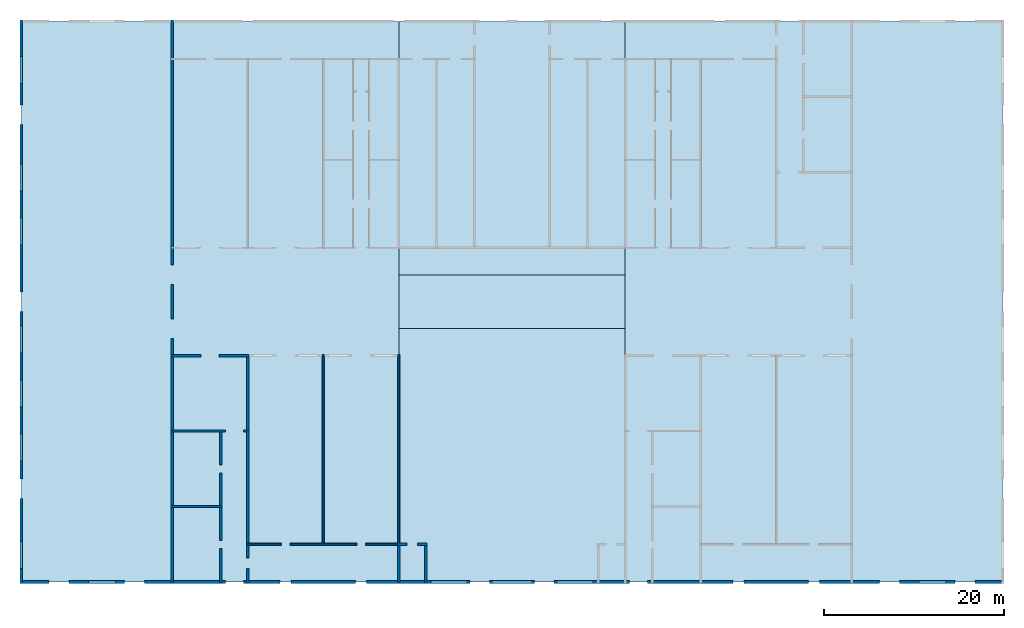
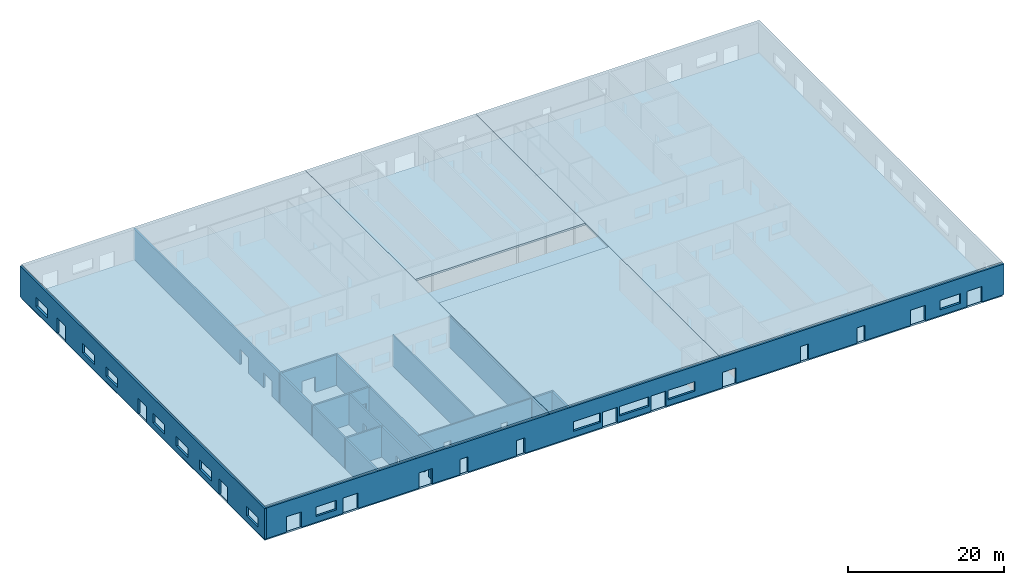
# One storey, part 1 of 3: 14 walls, 5 slabs, 52 openings.
"""IFC4 building model written with IfcOpenShell, lengths in millimetres."""

from ifc_helpers import new_model, si_unit, frame, origin_with_axes, place, context, subcontext, project, spatial, indexed_curve, outline, extrude, type_object, element, save


model = new_model("IFC4")

# Units and contexts
model_context = context("Model", 3, precision=1e-05, world=origin_with_axes())
body_context = subcontext(model_context, "Body", "Model", "MODEL_VIEW")
ifc_project = project(units=[si_unit("AREAUNIT", "SQUARE_METRE"), si_unit("VOLUMEUNIT", "CUBIC_METRE"), si_unit("LENGTHUNIT", "METRE", prefix="MILLI")], contexts=[model_context])

# Site, building, storey
site = spatial("IfcSite", under=ifc_project, Name="PIN 00000000 (sample)")
building = spatial("IfcBuilding", under=site, Name="Sample Shopping Mall")
storey = spatial("IfcBuildingStorey", under=building, Name="Ground Floor", Elevation=0.0)

# Slabs
slab_1_placement = place(None, frame((0.0, 0.0, -300.0), z_axis=(0.0, 0.0, 1.0), x_axis=(1.0, 0.0, 0.0)))
element("IfcSlab", 1, at=slab_1_placement, inside=storey, Name="Ground slab", PredefinedType="FLOOR", context=body_context, shape_type="SweptSolid", body=[
    extrude(outline(indexed_curve([(5400.0, 15600.0), (114599.99999999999, 15600.0), (114599.99999999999, 78000.0), (5400.0, 78000.0)])), None, (0.0, 0.0, 1.0), 300.0),
])
slab_2_placement = place(None, frame((0.0, 0.0, 4800.0), z_axis=(0.0, 0.0, 1.0), x_axis=(1.0, 0.0, 0.0)))
element("IfcSlab", 2, at=slab_2_placement, inside=storey, Name="Roof slab 0", PredefinedType="ROOF", context=body_context, shape_type="SweptSolid", body=[
    extrude(outline(indexed_curve([(5400.0, 15600.0), (47400.0, 15600.0), (47400.0, 78000.0), (5400.0, 78000.0)])), None, (0.0, 0.0, 1.0), 300.0),
])
slab_3_placement = place(None, frame((0.0, 0.0, 4800.0), z_axis=(0.0, 0.0, 1.0), x_axis=(1.0, 0.0, 0.0)))
element("IfcSlab", 3, at=slab_3_placement, inside=storey, Name="Roof slab 1", PredefinedType="ROOF", context=body_context, shape_type="SweptSolid", body=[
    extrude(outline(indexed_curve([(72600.0, 15600.0), (114599.99999999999, 15600.0), (114599.99999999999, 78000.0), (72600.0, 78000.0)])), None, (0.0, 0.0, 1.0), 300.0),
])
slab_4_placement = place(None, frame((0.0, 0.0, 4800.0), z_axis=(0.0, 0.0, 1.0), x_axis=(1.0, 0.0, 0.0)))
element("IfcSlab", 4, at=slab_4_placement, inside=storey, Name="Roof slab 2", PredefinedType="ROOF", context=body_context, shape_type="SweptSolid", body=[
    extrude(outline(indexed_curve([(47400.0, 15600.0), (72600.0, 15600.0), (72600.0, 43799.99999999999), (47400.0, 43799.99999999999)])), None, (0.0, 0.0, 1.0), 300.0),
])
slab_5_placement = place(None, frame((0.0, 0.0, 4800.0), z_axis=(0.0, 0.0, 1.0), x_axis=(1.0, 0.0, 0.0)))
element("IfcSlab", 5, at=slab_5_placement, inside=storey, Name="Roof slab 3", PredefinedType="ROOF", context=body_context, shape_type="SweptSolid", body=[
    extrude(outline(indexed_curve([(47400.0, 49799.99999999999), (72600.0, 49799.99999999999), (72600.0, 78000.0), (47400.0, 78000.0)])), None, (0.0, 0.0, 1.0), 300.0),
])

# Wall, openings
wall_type_1 = type_object("IfcWallType", Name="WT-300", PredefinedType="SOLIDWALL")
wall_1_placement = place(None, frame((5250.0, 15449.999999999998, 0.0), z_axis=(0.0, 0.0, 1.0), x_axis=(1.0, 0.0, 0.0)))
wall_1 = element("IfcWall", 6, at=wall_1_placement, inside=storey, type_object=wall_type_1, Name="W0", context=body_context, shape_type="SweptSolid", body=[
    extrude(outline(indexed_curve([(0.0, 0.0), (0.0, 300.0), (109499.99999999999, 300.0), (109499.99999999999, 0.0), (0.0, 0.0)], self_intersect=False)), origin_with_axes(), (0.0, 0.0, 1.0), 4800.0),
])
opening_1_placement = place(wall_1_placement, frame((50049.99999999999, -99.99999999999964, 0.0), z_axis=(0.0, 0.0, 1.0), x_axis=(1.0, 0.0, 0.0)))
element("IfcOpeningElement", 7, at=opening_1_placement, cuts=wall_1, Name="D03-opening", context=body_context, shape_type="SweptSolid", body=[
    extrude(outline(indexed_curve([(0.0, 0.0), (0.0, 500.0), (1100.0, 500.0), (1100.0, 0.0), (0.0, 0.0)], self_intersect=False)), origin_with_axes(), (0.0, 0.0, 1.0), 2400.0),
])
opening_2_placement = place(wall_1_placement, frame((51150.0, -99.99999999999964, 0.0), z_axis=(0.0, 0.0, 1.0), x_axis=(1.0, 0.0, 0.0)))
element("IfcOpeningElement", 8, at=opening_2_placement, cuts=wall_1, Name="-opening", context=body_context, shape_type="SweptSolid", body=[
    extrude(outline(indexed_curve([(0.0, 0.0), (0.0, 500.0), (1100.0, 500.0), (1100.0, 0.0), (0.0, 0.0)], self_intersect=False)), origin_with_axes(), (0.0, 0.0, 1.0), 2400.0),
])
opening_3_placement = place(wall_1_placement, frame((57250.0, -99.99999999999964, 0.0), z_axis=(0.0, 0.0, 1.0), x_axis=(1.0, 0.0, 0.0)))
element("IfcOpeningElement", 9, at=opening_3_placement, cuts=wall_1, Name="D04-opening", context=body_context, shape_type="SweptSolid", body=[
    extrude(outline(indexed_curve([(0.0, 0.0), (0.0, 500.0), (1100.0, 500.0), (1100.0, 0.0), (0.0, 0.0)], self_intersect=False)), origin_with_axes(), (0.0, 0.0, 1.0), 2400.0),
])
opening_4_placement = place(wall_1_placement, frame((58350.0, -99.99999999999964, 0.0), z_axis=(0.0, 0.0, 1.0), x_axis=(1.0, 0.0, 0.0)))
element("IfcOpeningElement", 10, at=opening_4_placement, cuts=wall_1, Name="-opening", context=body_context, shape_type="SweptSolid", body=[
    extrude(outline(indexed_curve([(0.0, 0.0), (0.0, 500.0), (1100.0, 500.0), (1100.0, 0.0), (0.0, 0.0)], self_intersect=False)), origin_with_axes(), (0.0, 0.0, 1.0), 2400.0),
])
opening_5_placement = place(wall_1_placement, frame((3250.0, -99.99999999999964, 0.0), z_axis=(0.0, 0.0, 1.0), x_axis=(1.0, 0.0, 0.0)))
element("IfcOpeningElement", 11, at=opening_5_placement, cuts=wall_1, Name="D10-opening", context=body_context, shape_type="SweptSolid", body=[
    extrude(outline(indexed_curve([(0.0, 0.0), (0.0, 500.0), (1100.0, 500.0), (1100.0, 0.0), (0.0, 0.0)], self_intersect=False)), origin_with_axes(), (0.0, 0.0, 1.0), 2400.0),
])
opening_6_placement = place(wall_1_placement, frame((4350.000000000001, -99.99999999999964, 0.0), z_axis=(0.0, 0.0, 1.0), x_axis=(1.0, 0.0, 0.0)))
element("IfcOpeningElement", 12, at=opening_6_placement, cuts=wall_1, Name="-opening", context=body_context, shape_type="SweptSolid", body=[
    extrude(outline(indexed_curve([(0.0, 0.0), (0.0, 500.0), (1100.0, 500.0), (1100.0, 0.0), (0.0, 0.0)], self_intersect=False)), origin_with_axes(), (0.0, 0.0, 1.0), 2400.0),
])
opening_7_placement = place(wall_1_placement, frame((11649.999999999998, -99.99999999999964, 0.0), z_axis=(0.0, 0.0, 1.0), x_axis=(1.0, 0.0, 0.0)))
element("IfcOpeningElement", 13, at=opening_7_placement, cuts=wall_1, Name="D11-opening", context=body_context, shape_type="SweptSolid", body=[
    extrude(outline(indexed_curve([(0.0, 0.0), (0.0, 500.0), (1100.0, 500.0), (1100.0, 0.0), (0.0, 0.0)], self_intersect=False)), origin_with_axes(), (0.0, 0.0, 1.0), 2400.0),
])
opening_8_placement = place(wall_1_placement, frame((12750.0, -99.99999999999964, 0.0), z_axis=(0.0, 0.0, 1.0), x_axis=(1.0, 0.0, 0.0)))
element("IfcOpeningElement", 14, at=opening_8_placement, cuts=wall_1, Name="-opening", context=body_context, shape_type="SweptSolid", body=[
    extrude(outline(indexed_curve([(0.0, 0.0), (0.0, 500.0), (1100.0, 500.0), (1100.0, 0.0), (0.0, 0.0)], self_intersect=False)), origin_with_axes(), (0.0, 0.0, 1.0), 2400.0),
])
opening_9_placement = place(wall_1_placement, frame((95650.0, -99.99999999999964, 0.0), z_axis=(0.0, 0.0, 1.0), x_axis=(1.0, 0.0, 0.0)))
element("IfcOpeningElement", 15, at=opening_9_placement, cuts=wall_1, Name="D19-opening", context=body_context, shape_type="SweptSolid", body=[
    extrude(outline(indexed_curve([(0.0, 0.0), (0.0, 500.0), (1100.0, 500.0), (1100.0, 0.0), (0.0, 0.0)], self_intersect=False)), origin_with_axes(), (0.0, 0.0, 1.0), 2400.0),
])
opening_10_placement = place(wall_1_placement, frame((96750.0, -99.99999999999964, 0.0), z_axis=(0.0, 0.0, 1.0), x_axis=(1.0, 0.0, 0.0)))
element("IfcOpeningElement", 16, at=opening_10_placement, cuts=wall_1, Name="-opening", context=body_context, shape_type="SweptSolid", body=[
    extrude(outline(indexed_curve([(0.0, 0.0), (0.0, 500.0), (1100.0, 500.0), (1100.0, 0.0), (0.0, 0.0)], self_intersect=False)), origin_with_axes(), (0.0, 0.0, 1.0), 2400.0),
])
opening_11_placement = place(wall_1_placement, frame((104050.00000000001, -99.99999999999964, 0.0), z_axis=(0.0, 0.0, 1.0), x_axis=(1.0, 0.0, 0.0)))
element("IfcOpeningElement", 17, at=opening_11_placement, cuts=wall_1, Name="D20-opening", context=body_context, shape_type="SweptSolid", body=[
    extrude(outline(indexed_curve([(0.0, 0.0), (0.0, 500.0), (1100.0, 500.0), (1100.0, 0.0), (0.0, 0.0)], self_intersect=False)), origin_with_axes(), (0.0, 0.0, 1.0), 2400.0),
])
opening_12_placement = place(wall_1_placement, frame((105150.0, -99.99999999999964, 0.0), z_axis=(0.0, 0.0, 1.0), x_axis=(1.0, 0.0, 0.0)))
element("IfcOpeningElement", 18, at=opening_12_placement, cuts=wall_1, Name="-opening", context=body_context, shape_type="SweptSolid", body=[
    extrude(outline(indexed_curve([(0.0, 0.0), (0.0, 500.0), (1100.0, 500.0), (1100.0, 0.0), (0.0, 0.0)], self_intersect=False)), origin_with_axes(), (0.0, 0.0, 1.0), 2400.0),
])
opening_13_placement = place(wall_1_placement, frame((28950.000000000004, -99.99999999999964, 0.0), z_axis=(0.0, 0.0, 1.0), x_axis=(1.0, 0.0, 0.0)))
element("IfcOpeningElement", 19, at=opening_13_placement, cuts=wall_1, Name="D23-opening", context=body_context, shape_type="SweptSolid", body=[
    extrude(outline(indexed_curve([(0.0, 0.0), (0.0, 500.0), (1200.0, 500.0), (1200.0, 0.0), (0.0, 0.0)], self_intersect=False)), origin_with_axes(), (0.0, 0.0, 1.0), 2400.0),
])
opening_14_placement = place(wall_1_placement, frame((37350.0, -99.99999999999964, 0.0), z_axis=(0.0, 0.0, 1.0), x_axis=(1.0, 0.0, 0.0)))
element("IfcOpeningElement", 20, at=opening_14_placement, cuts=wall_1, Name="D24-opening", context=body_context, shape_type="SweptSolid", body=[
    extrude(outline(indexed_curve([(0.0, 0.0), (0.0, 500.0), (1200.0, 500.0), (1200.0, 0.0), (0.0, 0.0)], self_intersect=False)), origin_with_axes(), (0.0, 0.0, 1.0), 2400.0),
])
opening_15_placement = place(wall_1_placement, frame((79350.0, -99.99999999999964, 0.0), z_axis=(0.0, 0.0, 1.0), x_axis=(1.0, 0.0, 0.0)))
element("IfcOpeningElement", 21, at=opening_15_placement, cuts=wall_1, Name="D25-opening", context=body_context, shape_type="SweptSolid", body=[
    extrude(outline(indexed_curve([(0.0, 0.0), (0.0, 500.0), (1200.0, 500.0), (1200.0, 0.0), (0.0, 0.0)], self_intersect=False)), origin_with_axes(), (0.0, 0.0, 1.0), 2400.0),
])
opening_16_placement = place(wall_1_placement, frame((87750.0, -99.99999999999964, 0.0), z_axis=(0.0, 0.0, 1.0), x_axis=(1.0, 0.0, 0.0)))
element("IfcOpeningElement", 22, at=opening_16_placement, cuts=wall_1, Name="D26-opening", context=body_context, shape_type="SweptSolid", body=[
    extrude(outline(indexed_curve([(0.0, 0.0), (0.0, 500.0), (1200.0, 500.0), (1200.0, 0.0), (0.0, 0.0)], self_intersect=False)), origin_with_axes(), (0.0, 0.0, 1.0), 2400.0),
])
opening_17_placement = place(wall_1_placement, frame((22850.0, -99.99999999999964, 0.0), z_axis=(0.0, 0.0, 1.0), x_axis=(1.0, 0.0, 0.0)))
element("IfcOpeningElement", 23, at=opening_17_placement, cuts=wall_1, Name="D33-opening", context=body_context, shape_type="SweptSolid", body=[
    extrude(outline(indexed_curve([(0.0, 0.0), (0.0, 500.0), (1000.0, 500.0), (1000.0, 0.0), (0.0, 0.0)], self_intersect=False)), origin_with_axes(), (0.0, 0.0, 1.0), 2400.0),
])
opening_18_placement = place(wall_1_placement, frame((23850.0, -99.99999999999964, 0.0), z_axis=(0.0, 0.0, 1.0), x_axis=(1.0, 0.0, 0.0)))
element("IfcOpeningElement", 24, at=opening_18_placement, cuts=wall_1, Name="-opening", context=body_context, shape_type="SweptSolid", body=[
    extrude(outline(indexed_curve([(0.0, 0.0), (0.0, 500.0), (1000.0, 500.0), (1000.0, 0.0), (0.0, 0.0)], self_intersect=False)), origin_with_axes(), (0.0, 0.0, 1.0), 2400.0),
])
opening_19_placement = place(wall_1_placement, frame((67850.0, -99.99999999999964, 0.0), z_axis=(0.0, 0.0, 1.0), x_axis=(1.0, 0.0, 0.0)))
element("IfcOpeningElement", 25, at=opening_19_placement, cuts=wall_1, Name="D43-opening", context=body_context, shape_type="SweptSolid", body=[
    extrude(outline(indexed_curve([(0.0, 0.0), (0.0, 500.0), (1000.0, 500.0), (1000.0, 0.0), (0.0, 0.0)], self_intersect=False)), origin_with_axes(), (0.0, 0.0, 1.0), 2400.0),
])
opening_20_placement = place(wall_1_placement, frame((68850.0, -99.99999999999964, 0.0), z_axis=(0.0, 0.0, 1.0), x_axis=(1.0, 0.0, 0.0)))
element("IfcOpeningElement", 26, at=opening_20_placement, cuts=wall_1, Name="-opening", context=body_context, shape_type="SweptSolid", body=[
    extrude(outline(indexed_curve([(0.0, 0.0), (0.0, 500.0), (1000.0, 500.0), (1000.0, 0.0), (0.0, 0.0)], self_intersect=False)), origin_with_axes(), (0.0, 0.0, 1.0), 2400.0),
])
opening_21_placement = place(wall_1_placement, frame((45750.0, -99.99999999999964, 900.0), z_axis=(0.0, 0.0, 1.0), x_axis=(1.0, 0.0, 0.0)))
element("IfcOpeningElement", 27, at=opening_21_placement, cuts=wall_1, Name="-opening", context=body_context, shape_type="SweptSolid", body=[
    extrude(outline(indexed_curve([(0.0, 0.0), (0.0, 500.0), (4000.0, 500.0), (4000.0, 0.0), (0.0, 0.0)], self_intersect=False)), origin_with_axes(), (0.0, 0.0, 1.0), 1500.0),
])
opening_22_placement = place(wall_1_placement, frame((52549.99999999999, -99.99999999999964, 900.0), z_axis=(0.0, 0.0, 1.0), x_axis=(1.0, 0.0, 0.0)))
element("IfcOpeningElement", 28, at=opening_22_placement, cuts=wall_1, Name="-opening", context=body_context, shape_type="SweptSolid", body=[
    extrude(outline(indexed_curve([(0.0, 0.0), (0.0, 500.0), (4400.0, 500.0), (4400.0, 0.0), (0.0, 0.0)], self_intersect=False)), origin_with_axes(), (0.0, 0.0, 1.0), 1500.0),
])
opening_23_placement = place(wall_1_placement, frame((59750.0, -99.99999999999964, 900.0), z_axis=(0.0, 0.0, 1.0), x_axis=(1.0, 0.0, 0.0)))
element("IfcOpeningElement", 29, at=opening_23_placement, cuts=wall_1, Name="-opening", context=body_context, shape_type="SweptSolid", body=[
    extrude(outline(indexed_curve([(0.0, 0.0), (0.0, 500.0), (4000.0, 500.0), (4000.0, 0.0), (0.0, 0.0)], self_intersect=False)), origin_with_axes(), (0.0, 0.0, 1.0), 1500.0),
])
opening_24_placement = place(wall_1_placement, frame((7650.0, -99.99999999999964, 900.0), z_axis=(0.0, 0.0, 1.0), x_axis=(1.0, 0.0, 0.0)))
element("IfcOpeningElement", 30, at=opening_24_placement, cuts=wall_1, Name="-opening", context=body_context, shape_type="SweptSolid", body=[
    extrude(outline(indexed_curve([(0.0, 0.0), (0.0, 500.0), (3000.0, 500.0), (3000.0, 0.0), (0.0, 0.0)], self_intersect=False)), origin_with_axes(), (0.0, 0.0, 1.0), 1500.0),
])
opening_25_placement = place(wall_1_placement, frame((100050.00000000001, -99.99999999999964, 900.0), z_axis=(0.0, 0.0, 1.0), x_axis=(1.0, 0.0, 0.0)))
element("IfcOpeningElement", 31, at=opening_25_placement, cuts=wall_1, Name="-opening", context=body_context, shape_type="SweptSolid", body=[
    extrude(outline(indexed_curve([(0.0, 0.0), (0.0, 500.0), (3000.0, 500.0), (3000.0, 0.0), (0.0, 0.0)], self_intersect=False)), origin_with_axes(), (0.0, 0.0, 1.0), 1500.0),
])

wall_2_placement = place(None, frame((5550.000000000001, 15449.999999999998, 0.0), z_axis=(0.0, 0.0, 1.0), x_axis=(6.123233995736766e-17, 1.0, 0.0)))
wall_2 = element("IfcWall", 32, at=wall_2_placement, inside=storey, type_object=wall_type_1, Name="W30", context=body_context, shape_type="SweptSolid", body=[
    extrude(outline(indexed_curve([(0.0, 0.0), (0.0, 300.0), (62699.99999999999, 300.0), (62699.99999999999, 0.0), (0.0, 0.0)], self_intersect=False)), origin_with_axes(), (0.0, 0.0, 1.0), 4800.0),
])
opening_26_placement = place(wall_2_placement, frame((9450.0, -99.99999999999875, 0.0), z_axis=(0.0, 0.0, 1.0), x_axis=(1.0, 0.0, 0.0)))
element("IfcOpeningElement", 33, at=opening_26_placement, cuts=wall_2, Name="D07-opening", context=body_context, shape_type="SweptSolid", body=[
    extrude(outline(indexed_curve([(0.0, 0.0), (0.0, 500.0), (1100.0, 500.0), (1100.0, 0.0), (0.0, 0.0)], self_intersect=False)), origin_with_axes(), (0.0, 0.0, 1.0), 2400.0),
])
opening_27_placement = place(wall_2_placement, frame((10550.0, -99.99999999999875, 0.0), z_axis=(0.0, 0.0, 1.0), x_axis=(1.0, 0.0, 0.0)))
element("IfcOpeningElement", 34, at=opening_27_placement, cuts=wall_2, Name="-opening", context=body_context, shape_type="SweptSolid", body=[
    extrude(outline(indexed_curve([(0.0, 0.0), (0.0, 500.0), (1100.0, 500.0), (1100.0, 0.0), (0.0, 0.0)], self_intersect=False)), origin_with_axes(), (0.0, 0.0, 1.0), 2400.0),
])
opening_28_placement = place(wall_2_placement, frame((30250.000000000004, -99.99999999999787, 0.0), z_axis=(0.0, 0.0, 1.0), x_axis=(1.0, 0.0, 0.0)))
element("IfcOpeningElement", 35, at=opening_28_placement, cuts=wall_2, Name="D08-opening", context=body_context, shape_type="SweptSolid", body=[
    extrude(outline(indexed_curve([(0.0, 0.0), (0.0, 500.0), (1100.0, 500.0), (1100.0, 0.0), (0.0, 0.0)], self_intersect=False)), origin_with_axes(), (0.0, 0.0, 1.0), 2400.0),
])
opening_29_placement = place(wall_2_placement, frame((31349.999999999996, -99.99999999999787, 0.0), z_axis=(0.0, 0.0, 1.0), x_axis=(1.0, 0.0, 0.0)))
element("IfcOpeningElement", 36, at=opening_29_placement, cuts=wall_2, Name="-opening", context=body_context, shape_type="SweptSolid", body=[
    extrude(outline(indexed_curve([(0.0, 0.0), (0.0, 500.0), (1100.0, 500.0), (1100.0, 0.0), (0.0, 0.0)], self_intersect=False)), origin_with_axes(), (0.0, 0.0, 1.0), 2400.0),
])
opening_30_placement = place(wall_2_placement, frame((51049.99999999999, -99.99999999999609, 0.0), z_axis=(0.0, 0.0, 1.0), x_axis=(1.0, 0.0, 0.0)))
element("IfcOpeningElement", 37, at=opening_30_placement, cuts=wall_2, Name="D09-opening", context=body_context, shape_type="SweptSolid", body=[
    extrude(outline(indexed_curve([(0.0, 0.0), (0.0, 500.0), (1100.0, 500.0), (1100.0, 0.0), (0.0, 0.0)], self_intersect=False)), origin_with_axes(), (0.0, 0.0, 1.0), 2400.0),
])
opening_31_placement = place(wall_2_placement, frame((52149.99999999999, -99.99999999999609, 0.0), z_axis=(0.0, 0.0, 1.0), x_axis=(1.0, 0.0, 0.0)))
element("IfcOpeningElement", 38, at=opening_31_placement, cuts=wall_2, Name="-opening", context=body_context, shape_type="SweptSolid", body=[
    extrude(outline(indexed_curve([(0.0, 0.0), (0.0, 500.0), (1100.0, 500.0), (1100.0, 0.0), (0.0, 0.0)], self_intersect=False)), origin_with_axes(), (0.0, 0.0, 1.0), 2400.0),
])
opening_32_placement = place(wall_2_placement, frame((1650.000000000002, -99.99999999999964, 900.0), z_axis=(0.0, 0.0, 1.0), x_axis=(1.0, 0.0, 0.0)))
element("IfcOpeningElement", 39, at=opening_32_placement, cuts=wall_2, Name="-opening", context=body_context, shape_type="SweptSolid", body=[
    extrude(outline(indexed_curve([(0.0, 0.0), (0.0, 500.0), (3000.0, 500.0), (3000.0, 0.0), (0.0, 0.0)], self_intersect=False)), origin_with_axes(), (0.0, 0.0, 1.0), 1500.0),
])
opening_33_placement = place(wall_2_placement, frame((13650.000000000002, -99.99999999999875, 900.0), z_axis=(0.0, 0.0, 1.0), x_axis=(1.0, 0.0, 0.0)))
element("IfcOpeningElement", 40, at=opening_33_placement, cuts=wall_2, Name="-opening", context=body_context, shape_type="SweptSolid", body=[
    extrude(outline(indexed_curve([(0.0, 0.0), (0.0, 500.0), (3000.0, 500.0), (3000.0, 0.0), (0.0, 0.0)], self_intersect=False)), origin_with_axes(), (0.0, 0.0, 1.0), 1500.0),
])
opening_34_placement = place(wall_2_placement, frame((19650.0, -99.99999999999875, 900.0), z_axis=(0.0, 0.0, 1.0), x_axis=(1.0, 0.0, 0.0)))
element("IfcOpeningElement", 41, at=opening_34_placement, cuts=wall_2, Name="-opening", context=body_context, shape_type="SweptSolid", body=[
    extrude(outline(indexed_curve([(0.0, 0.0), (0.0, 500.0), (3000.0, 500.0), (3000.0, 0.0), (0.0, 0.0)], self_intersect=False)), origin_with_axes(), (0.0, 0.0, 1.0), 1500.0),
])
opening_35_placement = place(wall_2_placement, frame((25650.0, -99.99999999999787, 900.0), z_axis=(0.0, 0.0, 1.0), x_axis=(1.0, 0.0, 0.0)))
element("IfcOpeningElement", 42, at=opening_35_placement, cuts=wall_2, Name="-opening", context=body_context, shape_type="SweptSolid", body=[
    extrude(outline(indexed_curve([(0.0, 0.0), (0.0, 500.0), (3000.0, 500.0), (3000.0, 0.0), (0.0, 0.0)], self_intersect=False)), origin_with_axes(), (0.0, 0.0, 1.0), 1500.0),
])
opening_36_placement = place(wall_2_placement, frame((37650.00000000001, -99.99999999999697, 900.0), z_axis=(0.0, 0.0, 1.0), x_axis=(1.0, 0.0, 0.0)))
element("IfcOpeningElement", 43, at=opening_36_placement, cuts=wall_2, Name="-opening", context=body_context, shape_type="SweptSolid", body=[
    extrude(outline(indexed_curve([(0.0, 0.0), (0.0, 500.0), (3000.0, 500.0), (3000.0, 0.0), (0.0, 0.0)], self_intersect=False)), origin_with_axes(), (0.0, 0.0, 1.0), 1500.0),
])
opening_37_placement = place(wall_2_placement, frame((43650.00000000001, -99.99999999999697, 900.0), z_axis=(0.0, 0.0, 1.0), x_axis=(1.0, 0.0, 0.0)))
element("IfcOpeningElement", 44, at=opening_37_placement, cuts=wall_2, Name="-opening", context=body_context, shape_type="SweptSolid", body=[
    extrude(outline(indexed_curve([(0.0, 0.0), (0.0, 500.0), (3000.0, 500.0), (3000.0, 0.0), (0.0, 0.0)], self_intersect=False)), origin_with_axes(), (0.0, 0.0, 1.0), 1500.0),
])
opening_38_placement = place(wall_2_placement, frame((55650.00000000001, -99.99999999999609, 900.0), z_axis=(0.0, 0.0, 1.0), x_axis=(1.0, 0.0, 0.0)))
element("IfcOpeningElement", 45, at=opening_38_placement, cuts=wall_2, Name="-opening", context=body_context, shape_type="SweptSolid", body=[
    extrude(outline(indexed_curve([(0.0, 0.0), (0.0, 500.0), (3000.0, 500.0), (3000.0, 0.0), (0.0, 0.0)], self_intersect=False)), origin_with_axes(), (0.0, 0.0, 1.0), 1500.0),
])

wall_type_2 = type_object("IfcWallType", Name="WT-200", PredefinedType="SOLIDWALL")
wall_3_placement = place(None, frame((30500.0, 19700.0, 0.0), z_axis=(0.0, 0.0, 1.0), x_axis=(1.0, 0.0, 0.0)))
wall_3 = element("IfcWall", 46, at=wall_3_placement, inside=storey, type_object=wall_type_2, Name="W1", context=body_context, shape_type="SweptSolid", body=[
    extrude(outline(indexed_curve([(0.0, 0.0), (0.0, 200.0), (16999.999999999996, 200.0), (16999.999999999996, 0.0), (0.0, 0.0)], self_intersect=False)), origin_with_axes(), (0.0, 0.0, 1.0), 4800.0),
])
opening_39_placement = place(wall_3_placement, frame((3800.000000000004, -99.99999999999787, 0.0), z_axis=(0.0, 0.0, 1.0), x_axis=(1.0, 0.0, 0.0)))
element("IfcOpeningElement", 47, at=opening_39_placement, cuts=wall_3, Name="-opening", context=body_context, shape_type="SweptSolid", body=[
    extrude(outline(indexed_curve([(0.0, 0.0), (0.0, 400.0), (1000.0, 400.0), (1000.0, 0.0), (0.0, 0.0)], self_intersect=False)), origin_with_axes(), (0.0, 0.0, 1.0), 2400.0),
])
opening_40_placement = place(wall_3_placement, frame((12200.000000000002, -99.99999999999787, 0.0), z_axis=(0.0, 0.0, 1.0), x_axis=(1.0, 0.0, 0.0)))
element("IfcOpeningElement", 48, at=opening_40_placement, cuts=wall_3, Name="-opening", context=body_context, shape_type="SweptSolid", body=[
    extrude(outline(indexed_curve([(0.0, 0.0), (0.0, 400.0), (1000.0, 400.0), (1000.0, 0.0), (0.0, 0.0)], self_intersect=False)), origin_with_axes(), (0.0, 0.0, 1.0), 2400.0),
])

# Walls
for number, where, z_axis, x_axis, name in (
    (49, (39100.0, 19700.0, 0.0), (0.0, 0.0, 1.0), (6.123233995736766e-17, 1.0, 0.0), "W35"),
    (50, (47500.0, 19700.0, 0.0), (0.0, 0.0, 1.0), (6.123233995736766e-17, 1.0, 0.0), "W40"),
):
    element("IfcWall", number, at=place(None, frame(where, z_axis=z_axis, x_axis=x_axis)), inside=storey, type_object=wall_type_2, Name=name, context=body_context, shape_type="SweptSolid", body=[
        extrude(outline(indexed_curve([(0.0, 0.0), (0.0, 200.0), (21199.999999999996, 200.0), (21199.999999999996, 0.0), (0.0, 0.0)], self_intersect=False)), origin_with_axes(), (0.0, 0.0, 1.0), 4800.0),
    ])

# Wall, opening
wall_type_3 = type_object("IfcWallType", Name="WT-250", PredefinedType="SOLIDWALL")
wall_4_placement = place(None, frame((47275.0, 19675.0, 0.0), z_axis=(0.0, 0.0, 1.0), x_axis=(1.0, 0.0, 0.0)))
wall_4 = element("IfcWall", 51, at=wall_4_placement, inside=storey, type_object=wall_type_3, Name="W2", context=body_context, shape_type="SweptSolid", body=[
    extrude(outline(indexed_curve([(0.0, 0.0), (0.0, 250.0), (3250.0, 250.0), (3250.0, 0.0), (0.0, 0.0)], self_intersect=False)), origin_with_axes(), (0.0, 0.0, 1.0), 4800.0),
])
opening_41_placement = place(wall_4_placement, frame((1024.9999999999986, -100.00000000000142, 0.0), z_axis=(0.0, 0.0, 1.0), x_axis=(1.0, 0.0, 0.0)))
element("IfcOpeningElement", 52, at=opening_41_placement, cuts=wall_4, Name="D01-opening", context=body_context, shape_type="SweptSolid", body=[
    extrude(outline(indexed_curve([(0.0, 0.0), (0.0, 450.0), (1200.0, 450.0), (1200.0, 0.0), (0.0, 0.0)], self_intersect=False)), origin_with_axes(), (0.0, 0.0, 1.0), 2400.0),
])

# Wall
wall_5_placement = place(None, frame((22075.0, 23875.0, 0.0), z_axis=(0.0, 0.0, 1.0), x_axis=(1.0, 0.0, 0.0)))
element("IfcWall", 53, at=wall_5_placement, inside=storey, type_object=wall_type_3, Name="W5", context=body_context, shape_type="SweptSolid", body=[
    extrude(outline(indexed_curve([(0.0, 0.0), (0.0, 250.0), (5650.000000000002, 250.0), (5650.000000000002, 0.0), (0.0, 0.0)], self_intersect=False)), origin_with_axes(), (0.0, 0.0, 1.0), 4800.0),
])

# Wall, openings
wall_6_placement = place(None, frame((22075.0, 32274.999999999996, 0.0), z_axis=(0.0, 0.0, 1.0), x_axis=(1.0, 0.0, 0.0)))
wall_6 = element("IfcWall", 54, at=wall_6_placement, inside=storey, type_object=wall_type_3, Name="W7", context=body_context, shape_type="SweptSolid", body=[
    extrude(outline(indexed_curve([(0.0, 0.0), (0.0, 250.0), (8650.000000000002, 250.0), (8650.000000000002, 0.0), (0.0, 0.0)], self_intersect=False)), origin_with_axes(), (0.0, 0.0, 1.0), 4800.0),
])
opening_42_placement = place(wall_6_placement, frame((6025.000000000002, -100.00000000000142, 0.0), z_axis=(0.0, 0.0, 1.0), x_axis=(1.0, 0.0, 0.0)))
element("IfcOpeningElement", 55, at=opening_42_placement, cuts=wall_6, Name="D32-opening", context=body_context, shape_type="SweptSolid", body=[
    extrude(outline(indexed_curve([(0.0, 0.0), (0.0, 450.0), (1000.0, 450.0), (1000.0, 0.0), (0.0, 0.0)], self_intersect=False)), origin_with_axes(), (0.0, 0.0, 1.0), 2400.0),
])
opening_43_placement = place(wall_6_placement, frame((7025.000000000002, -100.00000000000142, 0.0), z_axis=(0.0, 0.0, 1.0), x_axis=(1.0, 0.0, 0.0)))
element("IfcOpeningElement", 56, at=opening_43_placement, cuts=wall_6, Name="-opening", context=body_context, shape_type="SweptSolid", body=[
    extrude(outline(indexed_curve([(0.0, 0.0), (0.0, 450.0), (1000.0, 450.0), (1000.0, 0.0), (0.0, 0.0)], self_intersect=False)), origin_with_axes(), (0.0, 0.0, 1.0), 2400.0),
])

wall_7_placement = place(None, frame((22075.0, 40674.99999999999, 0.0), z_axis=(0.0, 0.0, 1.0), x_axis=(1.0, 0.0, 0.0)))
wall_7 = element("IfcWall", 57, at=wall_7_placement, inside=storey, type_object=wall_type_3, Name="W9", context=body_context, shape_type="SweptSolid", body=[
    extrude(outline(indexed_curve([(0.0, 0.0), (0.0, 250.0), (8650.000000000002, 250.0), (8650.000000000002, 0.0), (0.0, 0.0)], self_intersect=False)), origin_with_axes(), (0.0, 0.0, 1.0), 4800.0),
])
opening_44_placement = place(wall_7_placement, frame((3324.999999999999, -99.99999999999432, 0.0), z_axis=(0.0, 0.0, 1.0), x_axis=(1.0, 0.0, 0.0)))
element("IfcOpeningElement", 58, at=opening_44_placement, cuts=wall_7, Name="D31-opening", context=body_context, shape_type="SweptSolid", body=[
    extrude(outline(indexed_curve([(0.0, 0.0), (0.0, 450.0), (1000.0, 450.0), (1000.0, 0.0), (0.0, 0.0)], self_intersect=False)), origin_with_axes(), (0.0, 0.0, 1.0), 2400.0),
])
opening_45_placement = place(wall_7_placement, frame((4324.999999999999, -99.99999999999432, 0.0), z_axis=(0.0, 0.0, 1.0), x_axis=(1.0, 0.0, 0.0)))
element("IfcOpeningElement", 59, at=opening_45_placement, cuts=wall_7, Name="-opening", context=body_context, shape_type="SweptSolid", body=[
    extrude(outline(indexed_curve([(0.0, 0.0), (0.0, 450.0), (1000.0, 450.0), (1000.0, 0.0), (0.0, 0.0)], self_intersect=False)), origin_with_axes(), (0.0, 0.0, 1.0), 2400.0),
])

wall_8_placement = place(None, frame((22325.0, 15475.0, 0.0), z_axis=(0.0, 0.0, 1.0), x_axis=(6.123233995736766e-17, 1.0, 0.0)))
wall_8 = element("IfcWall", 60, at=wall_8_placement, inside=storey, type_object=wall_type_3, Name="W31", context=body_context, shape_type="SweptSolid", body=[
    extrude(outline(indexed_curve([(0.0, 0.0), (0.0, 250.0), (62650.0, 250.0), (62650.0, 0.0), (0.0, 0.0)], self_intersect=False)), origin_with_axes(), (0.0, 0.0, 1.0), 4800.0),
])
opening_46_placement = place(wall_8_placement, frame((27225.0, -99.99999999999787, 0.0), z_axis=(0.0, 0.0, 1.0), x_axis=(1.0, 0.0, 0.0)))
element("IfcOpeningElement", 61, at=opening_46_placement, cuts=wall_8, Name="D05-opening", context=body_context, shape_type="SweptSolid", body=[
    extrude(outline(indexed_curve([(0.0, 0.0), (0.0, 450.0), (1100.0, 450.0), (1100.0, 0.0), (0.0, 0.0)], self_intersect=False)), origin_with_axes(), (0.0, 0.0, 1.0), 2400.0),
])
opening_47_placement = place(wall_8_placement, frame((28324.999999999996, -99.99999999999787, 0.0), z_axis=(0.0, 0.0, 1.0), x_axis=(1.0, 0.0, 0.0)))
element("IfcOpeningElement", 62, at=opening_47_placement, cuts=wall_8, Name="-opening", context=body_context, shape_type="SweptSolid", body=[
    extrude(outline(indexed_curve([(0.0, 0.0), (0.0, 450.0), (1100.0, 450.0), (1100.0, 0.0), (0.0, 0.0)], self_intersect=False)), origin_with_axes(), (0.0, 0.0, 1.0), 2400.0),
])
opening_48_placement = place(wall_8_placement, frame((33225.0, -99.99999999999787, 0.0), z_axis=(0.0, 0.0, 1.0), x_axis=(1.0, 0.0, 0.0)))
element("IfcOpeningElement", 63, at=opening_48_placement, cuts=wall_8, Name="D06-opening", context=body_context, shape_type="SweptSolid", body=[
    extrude(outline(indexed_curve([(0.0, 0.0), (0.0, 450.0), (1100.0, 450.0), (1100.0, 0.0), (0.0, 0.0)], self_intersect=False)), origin_with_axes(), (0.0, 0.0, 1.0), 2400.0),
])
opening_49_placement = place(wall_8_placement, frame((34325.0, -99.99999999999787, 0.0), z_axis=(0.0, 0.0, 1.0), x_axis=(1.0, 0.0, 0.0)))
element("IfcOpeningElement", 64, at=opening_49_placement, cuts=wall_8, Name="-opening", context=body_context, shape_type="SweptSolid", body=[
    extrude(outline(indexed_curve([(0.0, 0.0), (0.0, 450.0), (1100.0, 450.0), (1100.0, 0.0), (0.0, 0.0)], self_intersect=False)), origin_with_axes(), (0.0, 0.0, 1.0), 2400.0),
])

wall_9_placement = place(None, frame((27725.0, 15475.0, 0.0), z_axis=(0.0, 0.0, 1.0), x_axis=(6.123233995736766e-17, 1.0, 0.0)))
wall_9 = element("IfcWall", 65, at=wall_9_placement, inside=storey, type_object=wall_type_3, Name="W32", context=body_context, shape_type="SweptSolid", body=[
    extrude(outline(indexed_curve([(0.0, 0.0), (0.0, 250.0), (17049.999999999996, 250.0), (17049.999999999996, 0.0), (0.0, 0.0)], self_intersect=False)), origin_with_axes(), (0.0, 0.0, 1.0), 4800.0),
])
opening_50_placement = place(wall_9_placement, frame((12274.999999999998, -100.00000000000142, 0.0), z_axis=(0.0, 0.0, 1.0), x_axis=(1.0, 0.0, 0.0)))
element("IfcOpeningElement", 66, at=opening_50_placement, cuts=wall_9, Name="-opening", context=body_context, shape_type="SweptSolid", body=[
    extrude(outline(indexed_curve([(0.0, 0.0), (0.0, 450.0), (900.0, 450.0), (900.0, 0.0), (0.0, 0.0)], self_intersect=False)), origin_with_axes(), (0.0, 0.0, 1.0), 2400.0),
])
opening_51_placement = place(wall_9_placement, frame((3875.0, -100.00000000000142, 0.0), z_axis=(0.0, 0.0, 1.0), x_axis=(1.0, 0.0, 0.0)))
element("IfcOpeningElement", 67, at=opening_51_placement, cuts=wall_9, Name="-opening", context=body_context, shape_type="SweptSolid", body=[
    extrude(outline(indexed_curve([(0.0, 0.0), (0.0, 450.0), (900.0, 450.0), (900.0, 0.0), (0.0, 0.0)], self_intersect=False)), origin_with_axes(), (0.0, 0.0, 1.0), 2400.0),
])

# Wall, opening
wall_10_placement = place(None, frame((30725.0, 15475.0, 0.0), z_axis=(0.0, 0.0, 1.0), x_axis=(6.123233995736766e-17, 1.0, 0.0)))
wall_10 = element("IfcWall", 68, at=wall_10_placement, inside=storey, type_object=wall_type_3, Name="W33", context=body_context, shape_type="SweptSolid", body=[
    extrude(outline(indexed_curve([(0.0, 0.0), (0.0, 250.0), (25449.999999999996, 250.0), (25449.999999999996, 0.0), (0.0, 0.0)], self_intersect=False)), origin_with_axes(), (0.0, 0.0, 1.0), 4800.0),
])
opening_52_placement = place(wall_10_placement, frame((1625.0000000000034, -100.00000000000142, 0.0), z_axis=(0.0, 0.0, 1.0), x_axis=(1.0, 0.0, 0.0)))
element("IfcOpeningElement", 69, at=opening_52_placement, cuts=wall_10, Name="-opening", context=body_context, shape_type="SweptSolid", body=[
    extrude(outline(indexed_curve([(0.0, 0.0), (0.0, 450.0), (1200.0, 450.0), (1200.0, 0.0), (0.0, 0.0)], self_intersect=False)), origin_with_axes(), (0.0, 0.0, 1.0), 2400.0),
])

# Walls
for number, where, z_axis, x_axis, name in (
    (70, (47525.0, 15475.0, 0.0), (0.0, 0.0, 1.0), (6.123233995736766e-17, 1.0, 0.0), "W39"),
    (71, (50525.0, 15475.0, 0.0), (0.0, 0.0, 1.0), (6.123233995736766e-17, 1.0, 0.0), "W42"),
):
    element("IfcWall", number, at=place(None, frame(where, z_axis=z_axis, x_axis=x_axis)), inside=storey, type_object=wall_type_3, Name=name, context=body_context, shape_type="SweptSolid", body=[
        extrude(outline(indexed_curve([(0.0, 0.0), (0.0, 250.0), (4450.000000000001, 250.0), (4450.000000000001, 0.0), (0.0, 0.0)], self_intersect=False)), origin_with_axes(), (0.0, 0.0, 1.0), 4800.0),
    ])

save(model, "model.ifc")
